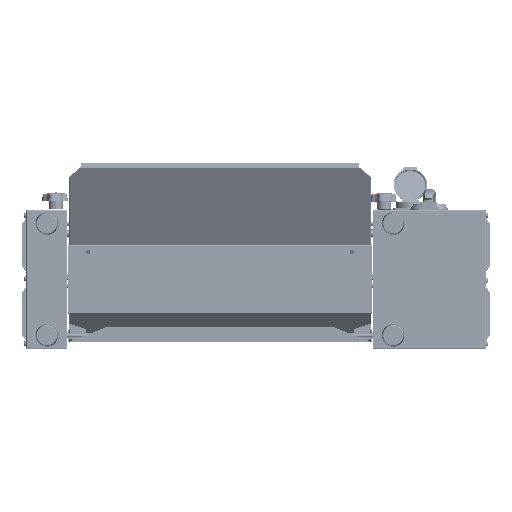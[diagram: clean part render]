
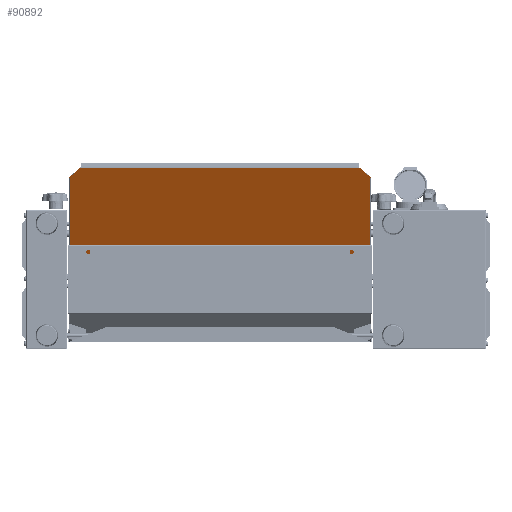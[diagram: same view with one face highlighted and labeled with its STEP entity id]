
A CAD part, front view. The second image highlights one B-rep face of the part: STEP entity #90892.
In plain terms, the highlighted planar face has unit normal (0, -0.874, -0.485).
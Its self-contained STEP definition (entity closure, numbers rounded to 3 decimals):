
#1782 = VERTEX_POINT ( 'NONE', #85840 ) ;
#9829 = CARTESIAN_POINT ( 'NONE',  ( 441.4, -287.285, 148.732 ) ) ;
#14522 = CARTESIAN_POINT ( 'NONE',  ( 3.6, -287.285, 148.732 ) ) ;
#21188 = EDGE_CURVE ( 'NONE', #186772, #84437, #60542, .T. ) ;
#23278 = CARTESIAN_POINT ( 'NONE',  ( 2.5, -178.696, -46.958 ) ) ;
#23671 = CARTESIAN_POINT ( 'NONE',  ( 2.5, -287.285, 148.732 ) ) ;
#32374 = DIRECTION ( 'NONE',  ( -0.707, -0.343, 0.618 ) ) ;
#35156 = ORIENTED_EDGE ( 'NONE', *, *, #181194, .T. ) ;
#36964 = DIRECTION ( 'NONE',  ( 1., 0., 0. ) ) ;
#37706 = CARTESIAN_POINT ( 'NONE',  ( 2.5, -287.285, 148.732 ) ) ;
#47240 = VECTOR ( 'NONE', #243683, 1000. ) ;
#49744 = ORIENTED_EDGE ( 'NONE', *, *, #113560, .T. ) ;
#56592 = LINE ( 'NONE', #216403, #219337 ) ;
#60542 = LINE ( 'NONE', #255769, #219420 ) ;
#61239 = DIRECTION ( 'NONE',  ( 1., 0., 0. ) ) ;
#63391 = CARTESIAN_POINT ( 'NONE',  ( 426.6, -295., 162.635 ) ) ;
#74254 = LINE ( 'NONE', #252425, #243041 ) ;
#75064 = AXIS2_PLACEMENT_3D ( 'NONE', #23278, #163244, #61239 ) ;
#84437 = VERTEX_POINT ( 'NONE', #9829 ) ;
#85840 = CARTESIAN_POINT ( 'NONE',  ( 3.6, -178.743, -46.873 ) ) ;
#90892 = ADVANCED_FACE ( 'NONE', ( #138409 ), #158039, .F. ) ;
#96390 = VECTOR ( 'NONE', #196644, 1000. ) ;
#98454 = DIRECTION ( 'NONE',  ( 0., -0.485, 0.874 ) ) ;
#100916 = EDGE_LOOP ( 'NONE', ( #225389, #35156, #49744, #224454, #200282, #230147, #220693, #244413 ) ) ;
#104394 = LINE ( 'NONE', #244620, #96390 ) ;
#107764 = EDGE_CURVE ( 'NONE', #120312, #147550, #56592, .T. ) ;
#112147 = VERTEX_POINT ( 'NONE', #209453 ) ;
#113370 = VERTEX_POINT ( 'NONE', #146184 ) ;
#113560 = EDGE_CURVE ( 'NONE', #1782, #186772, #166669, .T. ) ;
#118758 = DIRECTION ( 'NONE',  ( 0.707, -0.343, 0.618 ) ) ;
#120225 = CARTESIAN_POINT ( 'NONE',  ( 3.6, -287.285, 148.732 ) ) ;
#120312 = VERTEX_POINT ( 'NONE', #189111 ) ;
#129894 = DIRECTION ( 'NONE',  ( 1., 0., 0. ) ) ;
#138409 = FACE_OUTER_BOUND ( 'NONE', #100916, .T. ) ;
#138784 = VECTOR ( 'NONE', #129894, 1000. ) ;
#139678 = LINE ( 'NONE', #37706, #253504 ) ;
#139887 = LINE ( 'NONE', #120225, #165395 ) ;
#146184 = CARTESIAN_POINT ( 'NONE',  ( 2.5, -287.285, 148.732 ) ) ;
#147550 = VERTEX_POINT ( 'NONE', #63391 ) ;
#149587 = CARTESIAN_POINT ( 'NONE',  ( 2.5, -178.743, -46.873 ) ) ;
#158039 = PLANE ( 'NONE',  #75064 ) ;
#160618 = EDGE_CURVE ( 'NONE', #227812, #113370, #104394, .T. ) ;
#163244 = DIRECTION ( 'NONE',  ( 0., 0.874, 0.485 ) ) ;
#165395 = VECTOR ( 'NONE', #200299, 1000. ) ;
#166669 = LINE ( 'NONE', #149587, #138784 ) ;
#181194 = EDGE_CURVE ( 'NONE', #227812, #1782, #139887, .T. ) ;
#186772 = VERTEX_POINT ( 'NONE', #203297 ) ;
#189111 = CARTESIAN_POINT ( 'NONE',  ( 18.4, -295., 162.635 ) ) ;
#193615 = EDGE_CURVE ( 'NONE', #112147, #84437, #203089, .T. ) ;
#196644 = DIRECTION ( 'NONE',  ( -1., 0., 0. ) ) ;
#200282 = ORIENTED_EDGE ( 'NONE', *, *, #193615, .F. ) ;
#200299 = DIRECTION ( 'NONE',  ( 0., 0.485, -0.874 ) ) ;
#203089 = LINE ( 'NONE', #23671, #47240 ) ;
#203297 = CARTESIAN_POINT ( 'NONE',  ( 441.4, -178.743, -46.873 ) ) ;
#209453 = CARTESIAN_POINT ( 'NONE',  ( 442.5, -287.285, 148.732 ) ) ;
#216403 = CARTESIAN_POINT ( 'NONE',  ( 2.5, -295., 162.635 ) ) ;
#219337 = VECTOR ( 'NONE', #36964, 1000. ) ;
#219420 = VECTOR ( 'NONE', #98454, 1000. ) ;
#220693 = ORIENTED_EDGE ( 'NONE', *, *, #107764, .F. ) ;
#224454 = ORIENTED_EDGE ( 'NONE', *, *, #21188, .T. ) ;
#224626 = EDGE_CURVE ( 'NONE', #113370, #120312, #139678, .T. ) ;
#225389 = ORIENTED_EDGE ( 'NONE', *, *, #160618, .F. ) ;
#227812 = VERTEX_POINT ( 'NONE', #14522 ) ;
#230147 = ORIENTED_EDGE ( 'NONE', *, *, #248850, .T. ) ;
#243041 = VECTOR ( 'NONE', #32374, 1000. ) ;
#243683 = DIRECTION ( 'NONE',  ( -1., 0., 0. ) ) ;
#244413 = ORIENTED_EDGE ( 'NONE', *, *, #224626, .F. ) ;
#244620 = CARTESIAN_POINT ( 'NONE',  ( 2.5, -287.285, 148.732 ) ) ;
#248850 = EDGE_CURVE ( 'NONE', #112147, #147550, #74254, .T. ) ;
#252425 = CARTESIAN_POINT ( 'NONE',  ( 334.4, -339.736, 243.255 ) ) ;
#253504 = VECTOR ( 'NONE', #118758, 1000. ) ;
#255769 = CARTESIAN_POINT ( 'NONE',  ( 441.4, -178.743, -46.873 ) ) ;
